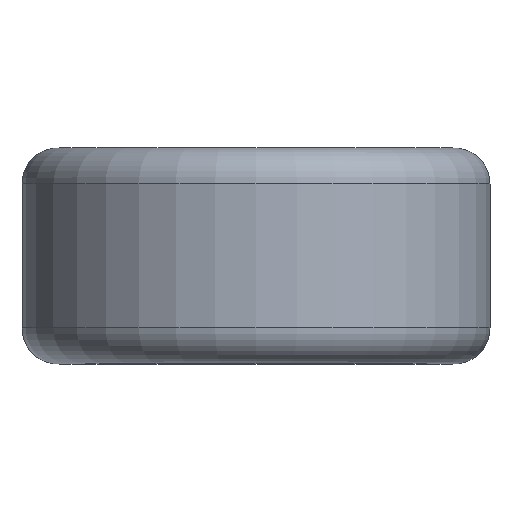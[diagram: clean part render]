
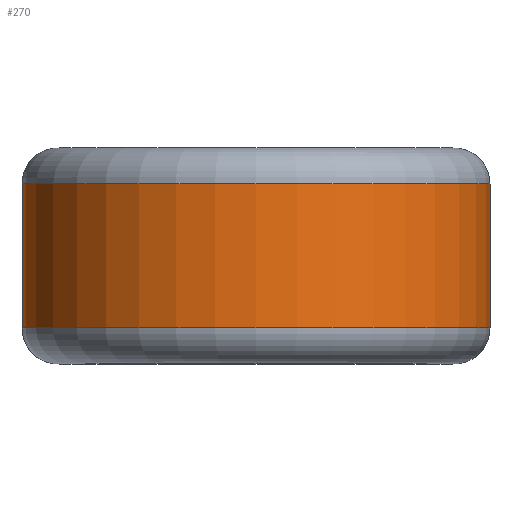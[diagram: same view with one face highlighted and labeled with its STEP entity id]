
A CAD part, top view. The second image highlights one B-rep face of the part: STEP entity #270.
In plain terms, the highlighted cylindrical face has radius 6.5 mm (diameter 13 mm), a full revolution.
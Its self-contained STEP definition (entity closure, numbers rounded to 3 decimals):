
#17=FACE_BOUND('',#83,.T.);
#18=FACE_BOUND('',#84,.T.);
#25=B_SPLINE_CURVE_WITH_KNOTS('',3,(#1075,#1076,#1077,#1078,#1079,#1080,
#1081,#1082,#1083,#1084,#1085,#1086,#1087,#1088,#1089,#1090,#1091),
 .UNSPECIFIED.,.T.,.F.,(4,1,1,1,1,1,1,1,1,1,1,1,1,1,4),(-0.351,
-0.33,-0.31,-0.289,-0.269,
-0.248,-0.228,-0.187,-0.166,
-0.156,-0.151,-0.146,-0.125,
-0.105,-0.064),.UNSPECIFIED.);
#26=B_SPLINE_CURVE_WITH_KNOTS('',3,(#1107,#1108,#1109,#1110,#1111,#1112,
#1113,#1114,#1115,#1116,#1117,#1118,#1119,#1120,#1121,#1122,#1123,#1124,
#1125),.UNSPECIFIED.,.T.,.F.,(4,1,1,1,1,1,1,1,1,1,1,1,1,1,1,1,4),(-0.338,
-0.318,-0.297,-0.277,-0.256,
-0.251,-0.246,-0.241,-0.236,
-0.216,-0.175,-0.154,-0.134,
-0.113,-0.093,-0.072,-0.052),
 .UNSPECIFIED.);
#64=FACE_OUTER_BOUND('',#82,.T.);
#82=EDGE_LOOP('',(#210,#211,#212,#213,#214,#215,#216,#217));
#83=EDGE_LOOP('',(#218));
#84=EDGE_LOOP('',(#219));
#97=LINE('',#1097,#100);
#100=VECTOR('',#359,6.5);
#108=CIRCLE('',#311,6.5);
#109=CIRCLE('',#312,6.5);
#110=CIRCLE('',#313,6.5);
#111=CIRCLE('',#314,6.5);
#112=CIRCLE('',#315,6.5);
#113=CIRCLE('',#316,6.5);
#132=VERTEX_POINT('',#1073);
#133=VERTEX_POINT('',#1093);
#134=VERTEX_POINT('',#1094);
#135=VERTEX_POINT('',#1096);
#136=VERTEX_POINT('',#1098);
#137=VERTEX_POINT('',#1100);
#138=VERTEX_POINT('',#1103);
#139=VERTEX_POINT('',#1106);
#162=EDGE_CURVE('',#132,#132,#25,.T.);
#163=EDGE_CURVE('',#133,#134,#108,.T.);
#164=EDGE_CURVE('',#134,#135,#97,.T.);
#165=EDGE_CURVE('',#135,#136,#109,.T.);
#166=EDGE_CURVE('',#136,#137,#110,.T.);
#167=EDGE_CURVE('',#137,#135,#111,.T.);
#168=EDGE_CURVE('',#134,#138,#112,.T.);
#169=EDGE_CURVE('',#138,#133,#113,.T.);
#170=EDGE_CURVE('',#139,#139,#26,.T.);
#210=ORIENTED_EDGE('',*,*,#163,.T.);
#211=ORIENTED_EDGE('',*,*,#164,.T.);
#212=ORIENTED_EDGE('',*,*,#165,.T.);
#213=ORIENTED_EDGE('',*,*,#166,.T.);
#214=ORIENTED_EDGE('',*,*,#167,.T.);
#215=ORIENTED_EDGE('',*,*,#164,.F.);
#216=ORIENTED_EDGE('',*,*,#168,.T.);
#217=ORIENTED_EDGE('',*,*,#169,.T.);
#218=ORIENTED_EDGE('',*,*,#170,.T.);
#219=ORIENTED_EDGE('',*,*,#162,.T.);
#262=CYLINDRICAL_SURFACE('',#310,6.5);
#270=ADVANCED_FACE('',(#64,#17,#18),#262,.T.);
#310=AXIS2_PLACEMENT_3D('',#1092,#355,#356);
#311=AXIS2_PLACEMENT_3D('',#1095,#357,#358);
#312=AXIS2_PLACEMENT_3D('',#1099,#360,#361);
#313=AXIS2_PLACEMENT_3D('',#1101,#362,#363);
#314=AXIS2_PLACEMENT_3D('',#1102,#364,#365);
#315=AXIS2_PLACEMENT_3D('',#1104,#366,#367);
#316=AXIS2_PLACEMENT_3D('',#1105,#368,#369);
#355=DIRECTION('center_axis',(0.,-1.,0.));
#356=DIRECTION('ref_axis',(1.,0.,0.));
#357=DIRECTION('center_axis',(0.,-1.,0.));
#358=DIRECTION('ref_axis',(-1.,0.,0.));
#359=DIRECTION('',(0.,-1.,0.));
#360=DIRECTION('center_axis',(0.,1.,0.));
#361=DIRECTION('ref_axis',(-1.,0.,0.));
#362=DIRECTION('center_axis',(0.,1.,0.));
#363=DIRECTION('ref_axis',(-1.,0.,0.));
#364=DIRECTION('center_axis',(0.,1.,0.));
#365=DIRECTION('ref_axis',(-1.,0.,0.));
#366=DIRECTION('center_axis',(0.,-1.,0.));
#367=DIRECTION('ref_axis',(-1.,0.,0.));
#368=DIRECTION('center_axis',(0.,-1.,0.));
#369=DIRECTION('ref_axis',(-1.,0.,0.));
#1073=CARTESIAN_POINT('',(-2.985,1.995,-5.774));
#1075=CARTESIAN_POINT('Ctrl Pts',(-2.985,1.995,-5.774));
#1076=CARTESIAN_POINT('Ctrl Pts',(-3.058,1.999,-5.736));
#1077=CARTESIAN_POINT('Ctrl Pts',(-3.203,1.971,-5.657));
#1078=CARTESIAN_POINT('Ctrl Pts',(-3.383,1.827,-5.551));
#1079=CARTESIAN_POINT('Ctrl Pts',(-3.489,1.603,-5.484));
#1080=CARTESIAN_POINT('Ctrl Pts',(-3.499,1.346,-5.478));
#1081=CARTESIAN_POINT('Ctrl Pts',(-3.411,1.112,-5.534));
#1082=CARTESIAN_POINT('Ctrl Pts',(-3.187,0.894,-5.669));
#1083=CARTESIAN_POINT('Ctrl Pts',(-2.871,0.882,-5.835));
#1084=CARTESIAN_POINT('Ctrl Pts',(-2.649,1.05,-5.936));
#1085=CARTESIAN_POINT('Ctrl Pts',(-2.57,1.168,-5.97));
#1086=CARTESIAN_POINT('Ctrl Pts',(-2.537,1.243,-5.984));
#1087=CARTESIAN_POINT('Ctrl Pts',(-2.498,1.361,-6.001));
#1088=CARTESIAN_POINT('Ctrl Pts',(-2.49,1.553,-6.004));
#1089=CARTESIAN_POINT('Ctrl Pts',(-2.62,1.866,-5.95));
#1090=CARTESIAN_POINT('Ctrl Pts',(-2.839,1.988,-5.849));
#1091=CARTESIAN_POINT('Ctrl Pts',(-2.985,1.995,-5.774));
#1092=CARTESIAN_POINT('Origin',(0.,0.,0.));
#1093=CARTESIAN_POINT('',(6.5,2.,0.));
#1094=CARTESIAN_POINT('',(-6.5,2.,0.));
#1095=CARTESIAN_POINT('Origin',(0.,2.,0.));
#1096=CARTESIAN_POINT('',(-6.5,-2.,0.));
#1097=CARTESIAN_POINT('',(-6.5,0.,0.));
#1098=CARTESIAN_POINT('',(0.,-2.,6.5));
#1099=CARTESIAN_POINT('Origin',(0.,-2.,0.));
#1100=CARTESIAN_POINT('',(6.5,-2.,0.));
#1101=CARTESIAN_POINT('Origin',(0.,-2.,0.));
#1102=CARTESIAN_POINT('Origin',(0.,-2.,0.));
#1103=CARTESIAN_POINT('',(0.,2.,-6.5));
#1104=CARTESIAN_POINT('Origin',(0.,2.,0.));
#1105=CARTESIAN_POINT('Origin',(0.,2.,0.));
#1106=CARTESIAN_POINT('',(2.985,-1.995,-5.774));
#1107=CARTESIAN_POINT('Ctrl Pts',(2.985,-1.995,-5.774));
#1108=CARTESIAN_POINT('Ctrl Pts',(3.058,-1.999,-5.736));
#1109=CARTESIAN_POINT('Ctrl Pts',(3.203,-1.971,-5.657));
#1110=CARTESIAN_POINT('Ctrl Pts',(3.383,-1.827,-5.551));
#1111=CARTESIAN_POINT('Ctrl Pts',(3.489,-1.603,-5.484));
#1112=CARTESIAN_POINT('Ctrl Pts',(3.496,-1.411,-5.48));
#1113=CARTESIAN_POINT('Ctrl Pts',(3.471,-1.289,-5.496));
#1114=CARTESIAN_POINT('Ctrl Pts',(3.452,-1.231,-5.507));
#1115=CARTESIAN_POINT('Ctrl Pts',(3.428,-1.175,-5.523));
#1116=CARTESIAN_POINT('Ctrl Pts',(3.369,-1.072,-5.559));
#1117=CARTESIAN_POINT('Ctrl Pts',(3.187,-0.895,-5.668));
#1118=CARTESIAN_POINT('Ctrl Pts',(2.871,-0.881,-5.836));
#1119=CARTESIAN_POINT('Ctrl Pts',(2.617,-1.074,-5.95));
#1120=CARTESIAN_POINT('Ctrl Pts',(2.501,-1.296,-6.));
#1121=CARTESIAN_POINT('Ctrl Pts',(2.49,-1.554,-6.004));
#1122=CARTESIAN_POINT('Ctrl Pts',(2.587,-1.787,-5.964));
#1123=CARTESIAN_POINT('Ctrl Pts',(2.766,-1.949,-5.884));
#1124=CARTESIAN_POINT('Ctrl Pts',(2.912,-1.992,-5.812));
#1125=CARTESIAN_POINT('Ctrl Pts',(2.985,-1.995,-5.774));
